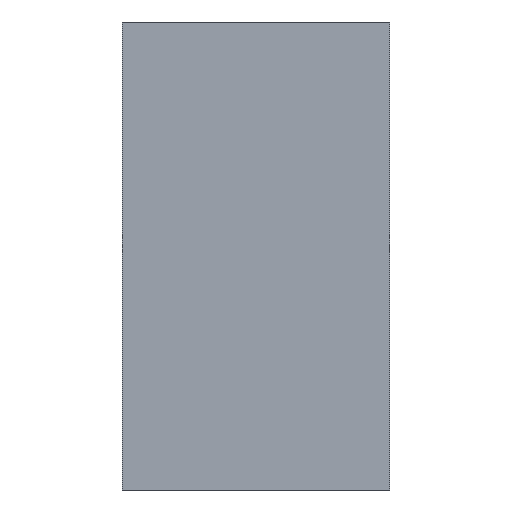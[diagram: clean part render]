
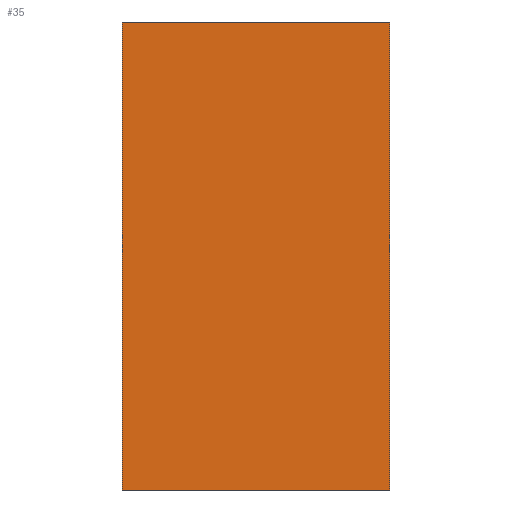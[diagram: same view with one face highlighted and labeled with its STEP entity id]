
A CAD part, left-side view. The second image highlights one B-rep face of the part: STEP entity #35.
In plain terms, the highlighted planar face has unit normal (-1, 0, 0).
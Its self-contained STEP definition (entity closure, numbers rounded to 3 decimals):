
#35 = ADVANCED_FACE('',(#36),#50,.F.);
#36 = FACE_BOUND('',#37,.F.);
#37 = EDGE_LOOP('',(#38,#73,#101,#129));
#38 = ORIENTED_EDGE('',*,*,#39,.F.);
#39 = EDGE_CURVE('',#40,#42,#44,.T.);
#40 = VERTEX_POINT('',#41);
#41 = CARTESIAN_POINT('',(-0.05,-4.,-7.));
#42 = VERTEX_POINT('',#43);
#43 = CARTESIAN_POINT('',(-0.05,-4.,7.));
#44 = SURFACE_CURVE('',#45,(#49,#61),.PCURVE_S1.);
#45 = LINE('',#46,#47);
#46 = CARTESIAN_POINT('',(-0.05,-4.,-7.));
#47 = VECTOR('',#48,1.);
#48 = DIRECTION('',(0.,0.,1.));
#49 = PCURVE('',#50,#55);
#50 = PLANE('',#51);
#51 = AXIS2_PLACEMENT_3D('',#52,#53,#54);
#52 = CARTESIAN_POINT('',(-0.05,-4.,-7.));
#53 = DIRECTION('',(1.,0.,0.));
#54 = DIRECTION('',(0.,0.,1.));
#55 = DEFINITIONAL_REPRESENTATION('',(#56),#60);
#56 = LINE('',#57,#58);
#57 = CARTESIAN_POINT('',(0.,0.));
#58 = VECTOR('',#59,1.);
#59 = DIRECTION('',(1.,0.));
#60 = ( GEOMETRIC_REPRESENTATION_CONTEXT(2) 
PARAMETRIC_REPRESENTATION_CONTEXT() REPRESENTATION_CONTEXT('2D SPACE',''
  ) );
#61 = PCURVE('',#62,#67);
#62 = PLANE('',#63);
#63 = AXIS2_PLACEMENT_3D('',#64,#65,#66);
#64 = CARTESIAN_POINT('',(-0.05,-4.,-7.));
#65 = DIRECTION('',(0.,1.,0.));
#66 = DIRECTION('',(0.,0.,1.));
#67 = DEFINITIONAL_REPRESENTATION('',(#68),#72);
#68 = LINE('',#69,#70);
#69 = CARTESIAN_POINT('',(0.,0.));
#70 = VECTOR('',#71,1.);
#71 = DIRECTION('',(1.,0.));
#72 = ( GEOMETRIC_REPRESENTATION_CONTEXT(2) 
PARAMETRIC_REPRESENTATION_CONTEXT() REPRESENTATION_CONTEXT('2D SPACE',''
  ) );
#73 = ORIENTED_EDGE('',*,*,#74,.T.);
#74 = EDGE_CURVE('',#40,#75,#77,.T.);
#75 = VERTEX_POINT('',#76);
#76 = CARTESIAN_POINT('',(-0.05,4.,-7.));
#77 = SURFACE_CURVE('',#78,(#82,#89),.PCURVE_S1.);
#78 = LINE('',#79,#80);
#79 = CARTESIAN_POINT('',(-0.05,-4.,-7.));
#80 = VECTOR('',#81,1.);
#81 = DIRECTION('',(0.,1.,0.));
#82 = PCURVE('',#50,#83);
#83 = DEFINITIONAL_REPRESENTATION('',(#84),#88);
#84 = LINE('',#85,#86);
#85 = CARTESIAN_POINT('',(0.,0.));
#86 = VECTOR('',#87,1.);
#87 = DIRECTION('',(0.,-1.));
#88 = ( GEOMETRIC_REPRESENTATION_CONTEXT(2) 
PARAMETRIC_REPRESENTATION_CONTEXT() REPRESENTATION_CONTEXT('2D SPACE',''
  ) );
#89 = PCURVE('',#90,#95);
#90 = PLANE('',#91);
#91 = AXIS2_PLACEMENT_3D('',#92,#93,#94);
#92 = CARTESIAN_POINT('',(-0.05,-4.,-7.));
#93 = DIRECTION('',(0.,0.,1.));
#94 = DIRECTION('',(1.,0.,0.));
#95 = DEFINITIONAL_REPRESENTATION('',(#96),#100);
#96 = LINE('',#97,#98);
#97 = CARTESIAN_POINT('',(0.,0.));
#98 = VECTOR('',#99,1.);
#99 = DIRECTION('',(0.,1.));
#100 = ( GEOMETRIC_REPRESENTATION_CONTEXT(2) 
PARAMETRIC_REPRESENTATION_CONTEXT() REPRESENTATION_CONTEXT('2D SPACE',''
  ) );
#101 = ORIENTED_EDGE('',*,*,#102,.T.);
#102 = EDGE_CURVE('',#75,#103,#105,.T.);
#103 = VERTEX_POINT('',#104);
#104 = CARTESIAN_POINT('',(-0.05,4.,7.));
#105 = SURFACE_CURVE('',#106,(#110,#117),.PCURVE_S1.);
#106 = LINE('',#107,#108);
#107 = CARTESIAN_POINT('',(-0.05,4.,-7.));
#108 = VECTOR('',#109,1.);
#109 = DIRECTION('',(0.,0.,1.));
#110 = PCURVE('',#50,#111);
#111 = DEFINITIONAL_REPRESENTATION('',(#112),#116);
#112 = LINE('',#113,#114);
#113 = CARTESIAN_POINT('',(0.,-8.));
#114 = VECTOR('',#115,1.);
#115 = DIRECTION('',(1.,0.));
#116 = ( GEOMETRIC_REPRESENTATION_CONTEXT(2) 
PARAMETRIC_REPRESENTATION_CONTEXT() REPRESENTATION_CONTEXT('2D SPACE',''
  ) );
#117 = PCURVE('',#118,#123);
#118 = PLANE('',#119);
#119 = AXIS2_PLACEMENT_3D('',#120,#121,#122);
#120 = CARTESIAN_POINT('',(-0.05,4.,-7.));
#121 = DIRECTION('',(0.,1.,0.));
#122 = DIRECTION('',(0.,0.,1.));
#123 = DEFINITIONAL_REPRESENTATION('',(#124),#128);
#124 = LINE('',#125,#126);
#125 = CARTESIAN_POINT('',(0.,0.));
#126 = VECTOR('',#127,1.);
#127 = DIRECTION('',(1.,0.));
#128 = ( GEOMETRIC_REPRESENTATION_CONTEXT(2) 
PARAMETRIC_REPRESENTATION_CONTEXT() REPRESENTATION_CONTEXT('2D SPACE',''
  ) );
#129 = ORIENTED_EDGE('',*,*,#130,.F.);
#130 = EDGE_CURVE('',#42,#103,#131,.T.);
#131 = SURFACE_CURVE('',#132,(#136,#143),.PCURVE_S1.);
#132 = LINE('',#133,#134);
#133 = CARTESIAN_POINT('',(-0.05,-4.,7.));
#134 = VECTOR('',#135,1.);
#135 = DIRECTION('',(0.,1.,0.));
#136 = PCURVE('',#50,#137);
#137 = DEFINITIONAL_REPRESENTATION('',(#138),#142);
#138 = LINE('',#139,#140);
#139 = CARTESIAN_POINT('',(14.,0.));
#140 = VECTOR('',#141,1.);
#141 = DIRECTION('',(0.,-1.));
#142 = ( GEOMETRIC_REPRESENTATION_CONTEXT(2) 
PARAMETRIC_REPRESENTATION_CONTEXT() REPRESENTATION_CONTEXT('2D SPACE',''
  ) );
#143 = PCURVE('',#144,#149);
#144 = PLANE('',#145);
#145 = AXIS2_PLACEMENT_3D('',#146,#147,#148);
#146 = CARTESIAN_POINT('',(-0.05,-4.,7.));
#147 = DIRECTION('',(0.,0.,1.));
#148 = DIRECTION('',(1.,0.,0.));
#149 = DEFINITIONAL_REPRESENTATION('',(#150),#154);
#150 = LINE('',#151,#152);
#151 = CARTESIAN_POINT('',(0.,0.));
#152 = VECTOR('',#153,1.);
#153 = DIRECTION('',(0.,1.));
#154 = ( GEOMETRIC_REPRESENTATION_CONTEXT(2) 
PARAMETRIC_REPRESENTATION_CONTEXT() REPRESENTATION_CONTEXT('2D SPACE',''
  ) );
